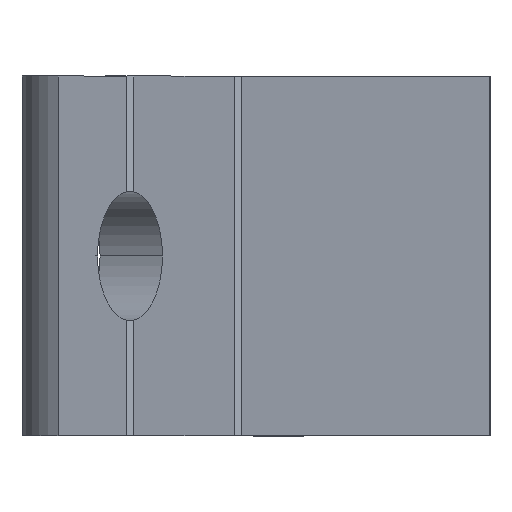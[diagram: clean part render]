
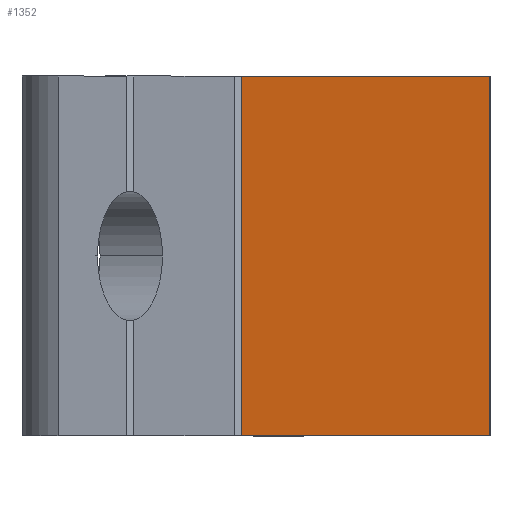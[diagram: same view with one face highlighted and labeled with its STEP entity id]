
A CAD part, left-side view. The second image highlights one B-rep face of the part: STEP entity #1352.
In plain terms, the highlighted planar face has unit normal (-0.5, -0.866, 0).
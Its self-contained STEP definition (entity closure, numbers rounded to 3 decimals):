
#19 = VERTEX_POINT ( 'NONE', #1281 ) ;
#37 = ORIENTED_EDGE ( 'NONE', *, *, #1601, .T. ) ;
#39 = VERTEX_POINT ( 'NONE', #246 ) ;
#73 = EDGE_CURVE ( 'NONE', #879, #39, #1157, .T. ) ;
#83 = CARTESIAN_POINT ( 'NONE',  ( 0., 0., 30. ) ) ;
#170 = CARTESIAN_POINT ( 'NONE',  ( -29.878, 17.25, 0. ) ) ;
#221 = DIRECTION ( 'NONE',  ( -0.5, -0.866, 0. ) ) ;
#223 = CARTESIAN_POINT ( 'NONE',  ( -29.878, 17.25, 5. ) ) ;
#225 = CARTESIAN_POINT ( 'NONE',  ( 0., 0., 30. ) ) ;
#246 = CARTESIAN_POINT ( 'NONE',  ( 0., 0., 5. ) ) ;
#263 = AXIS2_PLACEMENT_3D ( 'NONE', #353, #221, #1189 ) ;
#274 = ORIENTED_EDGE ( 'NONE', *, *, #73, .F. ) ;
#353 = CARTESIAN_POINT ( 'NONE',  ( 0., 0., 0. ) ) ;
#403 = VECTOR ( 'NONE', #1174, 1000. ) ;
#428 = LINE ( 'NONE', #170, #1566 ) ;
#485 = DIRECTION ( 'NONE',  ( 0., 0., -1. ) ) ;
#617 = DIRECTION ( 'NONE',  ( -0.866, 0.5, 0. ) ) ;
#770 = CARTESIAN_POINT ( 'NONE',  ( 0., 0., 0. ) ) ;
#865 = VECTOR ( 'NONE', #485, 1000. ) ;
#877 = CARTESIAN_POINT ( 'NONE',  ( 0., 0., 5. ) ) ;
#879 = VERTEX_POINT ( 'NONE', #225 ) ;
#1145 = LINE ( 'NONE', #877, #403 ) ;
#1157 = LINE ( 'NONE', #770, #865 ) ;
#1159 = VECTOR ( 'NONE', #617, 1000. ) ;
#1174 = DIRECTION ( 'NONE',  ( 0.866, -0.5, 0. ) ) ;
#1189 = DIRECTION ( 'NONE',  ( 0.866, -0.5, 0. ) ) ;
#1246 = DIRECTION ( 'NONE',  ( 0., 0., -1. ) ) ;
#1271 = VERTEX_POINT ( 'NONE', #223 ) ;
#1278 = PLANE ( 'NONE',  #263 ) ;
#1281 = CARTESIAN_POINT ( 'NONE',  ( -29.878, 17.25, 30. ) ) ;
#1293 = EDGE_LOOP ( 'NONE', ( #37, #1667, #274, #1484 ) ) ;
#1352 = ADVANCED_FACE ( 'NONE', ( #1421 ), #1278, .T. ) ;
#1421 = FACE_OUTER_BOUND ( 'NONE', #1293, .T. ) ;
#1484 = ORIENTED_EDGE ( 'NONE', *, *, #1695, .T. ) ;
#1566 = VECTOR ( 'NONE', #1246, 1000. ) ;
#1601 = EDGE_CURVE ( 'NONE', #19, #1271, #428, .T. ) ;
#1667 = ORIENTED_EDGE ( 'NONE', *, *, #1696, .T. ) ;
#1673 = LINE ( 'NONE', #83, #1159 ) ;
#1695 = EDGE_CURVE ( 'NONE', #879, #19, #1673, .T. ) ;
#1696 = EDGE_CURVE ( 'NONE', #1271, #39, #1145, .T. ) ;
